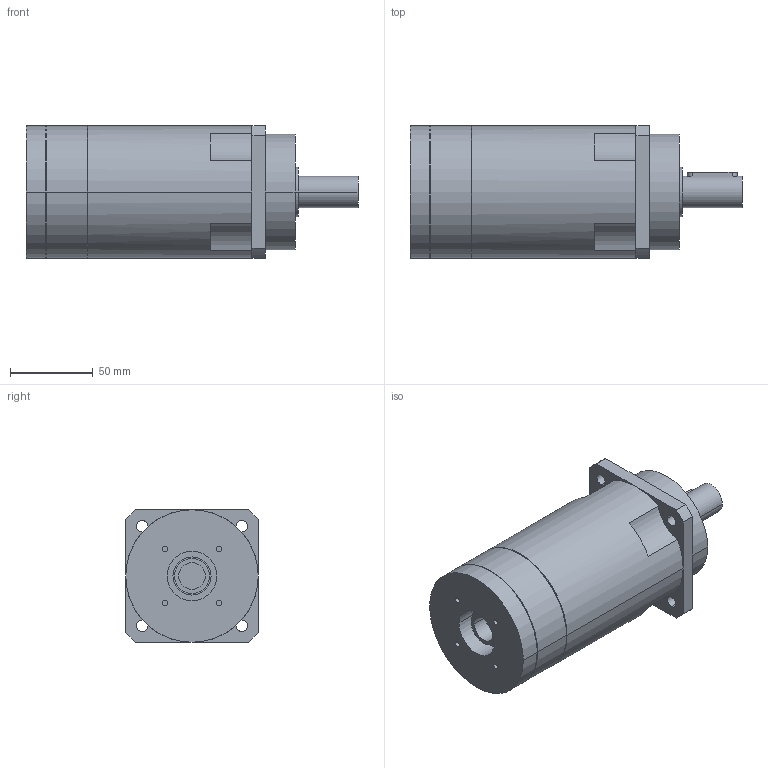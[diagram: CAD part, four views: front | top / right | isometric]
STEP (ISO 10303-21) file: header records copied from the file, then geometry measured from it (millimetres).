
FILE_DESCRIPTION(('CoCreate Modeling STEP Export'),'2;1');
FILE_NAME('GPR100_ig-48-64-80-100-120-144-180-216_19_B5_16_P24.stp','2014-08-26T11:55:51',(''),(''),'CoCreate Modeling STEP processor for AP214 (Solid Model)','CoCreate Modeling 16.00C 25-Feb-2009 (C) Parametric Technology GmbH','');
FILE_SCHEMA(('AUTOMOTIVE_DESIGN { 1 0 10303 214 1 1 1 1 }'));
Length unit declared in the file: millimetre
Products named in the file (2): GPR100_ig-48-64-80-100-120-144-180-216_19_B5_16_P24
Assembly tree (1 placements, depth 2):
  GPR100_ig-48-64-80-100-120-144-180-216_19_B5_16_P24
    GPR100_ig-48-64-80-100-120-144-180-216_19_B5_16_P24
Bounding box: 200.4 x 80 x 80 mm (x, y, z)
Volume: 793544.8 mm3; surface area: 61304.4 mm2
Topology: 1 solids, 1 shells, 84 faces, 216 edges, 146 vertices
Faces by surface type: cylinder 48, plane 30, cone 6
Entity records: 2299 total; most frequent: ORIENTED_EDGE 428, CARTESIAN_POINT 418, DIRECTION 336, EDGE_CURVE 214, VERTEX_POINT 146, AXIS2_PLACEMENT_3D 128, EDGE_LOOP 106, FACE_OUTER_BOUND 84
